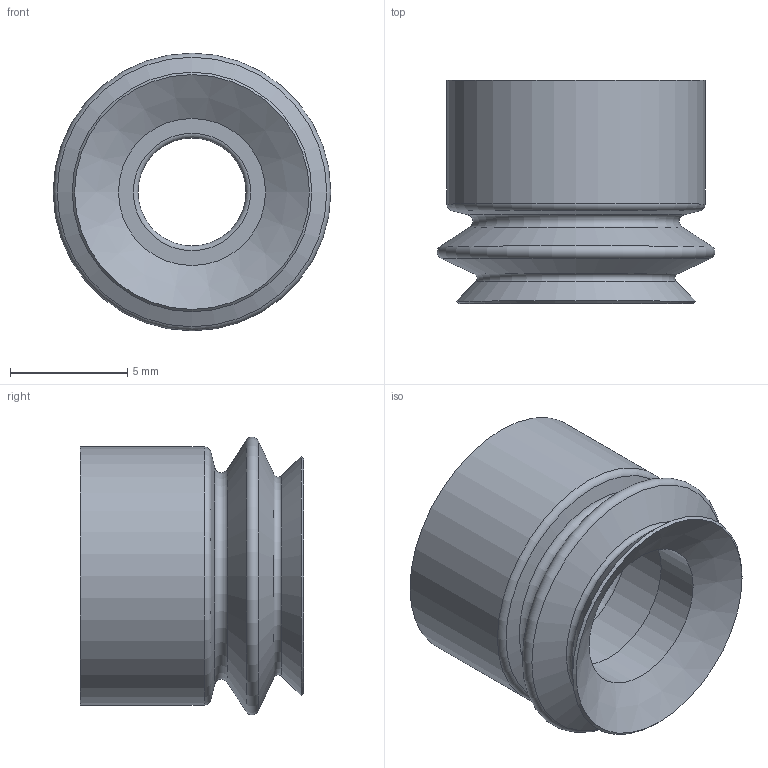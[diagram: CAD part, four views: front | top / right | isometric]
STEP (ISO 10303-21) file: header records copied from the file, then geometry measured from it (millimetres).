
FILE_DESCRIPTION(('STEP AP203'),'1');
FILE_NAME('_3D.stp','2025-02-13T07:54:15',(' '),(' '),'Spatial InterOp 3D',' ',' ');
FILE_SCHEMA(('CONFIG_CONTROL_DESIGN'));
Length unit declared in the file: millimetre
Products named in the file (1): 1
Bounding box: 11.83 x 9.5 x 11.83 mm (x, y, z)
Volume: 516.2 mm3; surface area: 742.7 mm2
Topology: 1 solids, 1 shells, 20 faces, 46 edges, 29 vertices
Faces by surface type: torus 7, cone 6, cylinder 4, plane 3
Full cylindrical faces by diameter (mm): 4.6 x1, 6.266 x1, 7.8 x1, 11 x1
Entity records: 452 total; most frequent: DIRECTION 82, CARTESIAN_POINT 61, AXIS2_PLACEMENT_3D 41, EDGE_LOOP 40, ORIENTED_EDGE 40, FACE_OUTER_BOUND 31, ADVANCED_FACE 20, EDGE_CURVE 20
